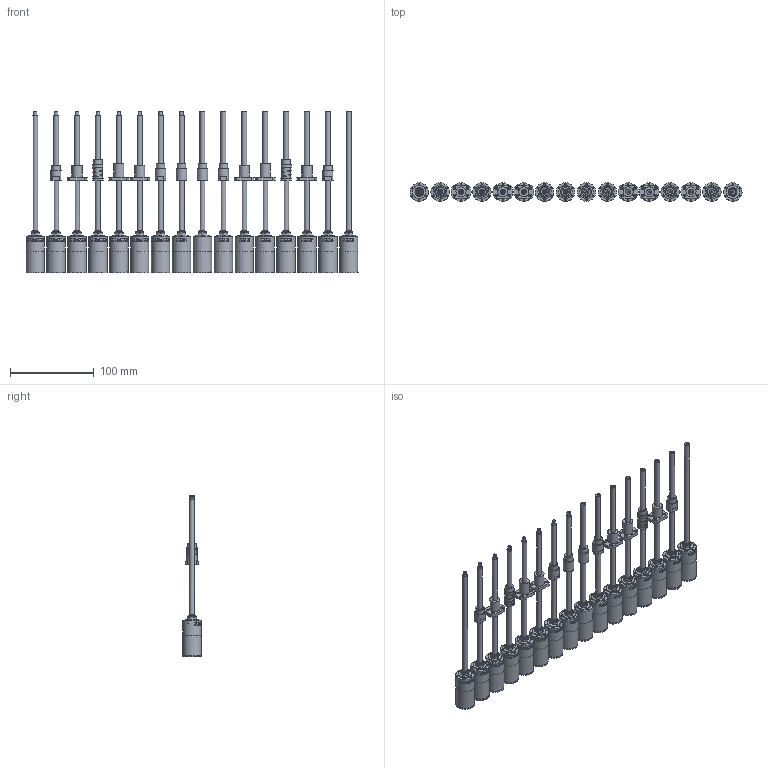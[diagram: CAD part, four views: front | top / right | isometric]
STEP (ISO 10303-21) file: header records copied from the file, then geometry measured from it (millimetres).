
FILE_DESCRIPTION(/* description */ (''),/* implementation_level */ '2;1');
FILE_NAME(/* name */ '922L-3stage_standard+KWNx+KWS1.stp',/* time_stamp */ '2022-11-04T08:27:52+01:00',/* author */ ('DR. FRITZ FAULHABER GmbH & Co. KG'),/* organization */ ('DR. FRITZ FAULHABER GmbH & Co. KG'),/* preprocessor_version */ 'ST-DEVELOPER v16.7',/* originating_system */ 'SIEMENS PLM Software NX 1919',/* authorisation */ '');
FILE_SCHEMA (('AUTOMOTIVE_DESIGN { 1 0 10303 214 3 1 1 1 }'));
Length unit declared in the file: millimetre
Products named in the file (1): LA_part
Bounding box: 397 x 22.01 x 193.5 mm (x, y, z)
Volume: 350856.7 mm3; surface area: 124914.4 mm2
Topology: 16 solids, 16 shells, 2084 faces, 5004 edges, 3363 vertices
Faces by surface type: plane 1090, cylinder 555, bspline 391, torus 32, cone 16
Full cylindrical faces by diameter (mm): 1.6 x96, 3.4 x24, 4 x8, 6 x46, 6.6 x16, 10 x8, 10.068 x16, 10.1 x2, 12 x20, 12.5 x8, 16 x16, 20.8 x16, 21 x16, 21.999 x16, 22 x32
Entity records: 110351 total; most frequent: CARTESIAN_POINT 60906, ORIENTED_EDGE 8992, DIRECTION 6957, EDGE_CURVE 4496, VERTEX_POINT 3265, EDGE_LOOP 2941, AXIS2_PLACEMENT_3D 2934, B_SPLINE_CURVE_WITH_KNOTS 2167
